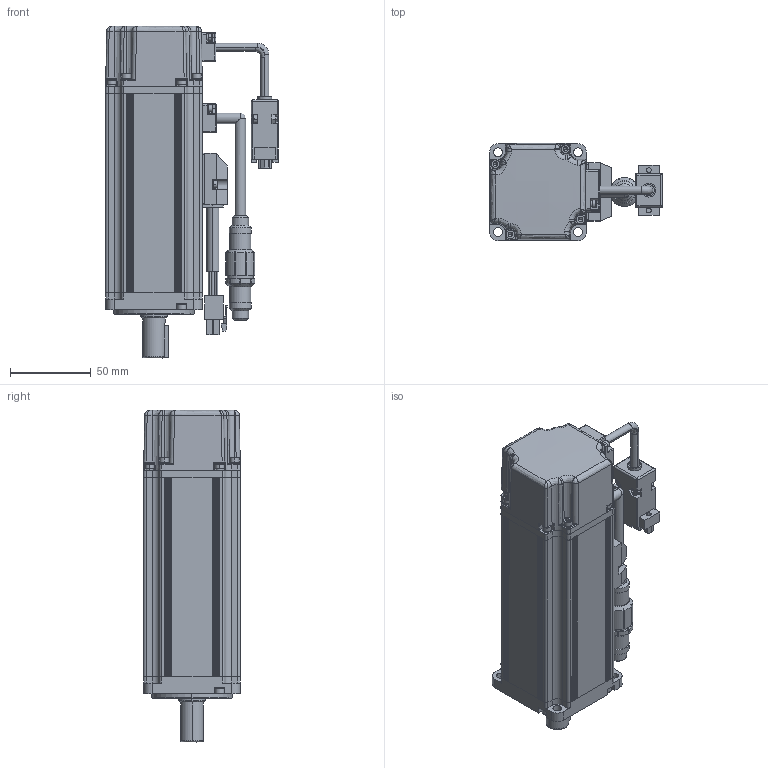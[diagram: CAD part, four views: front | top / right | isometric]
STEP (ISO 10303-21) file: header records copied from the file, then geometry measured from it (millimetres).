
FILE_DESCRIPTION((''),'2;1');
FILE_NAME('06-1A2_ASM','2018-05-02T',('Administrator'),(''),'PRO/ENGINEER BY PARAMETRIC TECHNOLOGY CORPORATION, 2009440','PRO/ENGINEER BY PARAMETRIC TECHNOLOGY CORPORATION, 2009440','');
FILE_SCHEMA(('CONFIG_CONTROL_DESIGN'));
Products named in the file (32): 60-1A2-ZZ; 60-1A2-Z_ASM; ML60-QDG-A2; 60-MFQ; 60-ZYG; GB-T93-2R5; GB-T70-M2R5X8; OQ-52X1; GB-T93-3; GB-T70-M3X16; GB-T9877-17X28X4; 60-QA2_ASM; 60-1A2-JK; GB-T97-3; GB-T70-M3X5; DYX-CT; DYX-YXH; BZX-ZJ; XHXCT; XHX; BZX-ZJ_ASM; 60-1A2-DZ_ASM; 60-HA2-JDS; OQ-50X1; 60-HA2-JDS_ASM; 5X5X20; 60-FHZ-L; GB-T70-M3X12; 60-FHZ-ZJ_ASM; XHX-ZJ; DYX-ZJ; 06-1A2_ASM
Assembly tree (72 placements, depth 4):
  06-1A2_ASM
    60-1A2-Z_ASM
      60-1A2-ZZ
    60-QA2_ASM
      ML60-QDG-A2
      60-MFQ
      60-ZYG
      GB-T93-2R5  x3
      GB-T70-M2R5X8  x3
      OQ-52X1
      GB-T93-3  x4
      GB-T70-M3X16  x4
      GB-T9877-17X28X4
    60-1A2-DZ_ASM
      60-1A2-JK
      GB-T97-3
      GB-T93-3
      GB-T70-M3X5
      DYX-CT
      DYX-YXH
      GB-T93-2R5  x2
      GB-T70-M2R5X8  x2
      BZX-ZJ_ASM
        BZX-ZJ
        XHXCT
        XHX
        GB-T93-2R5  x2
        GB-T70-M2R5X8  x2
    60-HA2-JDS_ASM
      60-HA2-JDS
      OQ-52X1
      OQ-50X1
      GB-T93-3  x4
      GB-T70-M3X16  x4
    5X5X20
    60-FHZ-ZJ_ASM
      60-FHZ-L
      XHXCT
      XHX
      GB-T93-2R5  x2
      GB-T70-M2R5X8  x2
      GB-T93-3  x4
      GB-T70-M3X12  x4
    XHX-ZJ
    DYX-ZJ
Bounding box: 107.09 x 60 x 205.72 mm (x, y, z)
Volume: 213438.3 mm3; surface area: 152636.7 mm2
Topology: 66 solids, 92 shells, 2960 faces, 6948 edges, 4268 vertices
Faces by surface type: plane 1508, cylinder 841, cone 402, torus 108, bspline 87, sphere 10, extrusion 4
Entity records: 70674 total; most frequent: CARTESIAN_POINT 19347, DIRECTION 10638, ORIENTED_EDGE 10392, EDGE_CURVE 5211, AXIS2_PLACEMENT_3D 3715, VERTEX_POINT 3332, VECTOR 3208, LINE 3204
